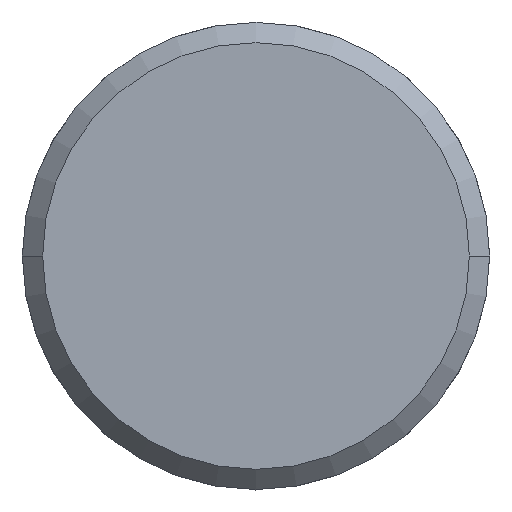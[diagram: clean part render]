
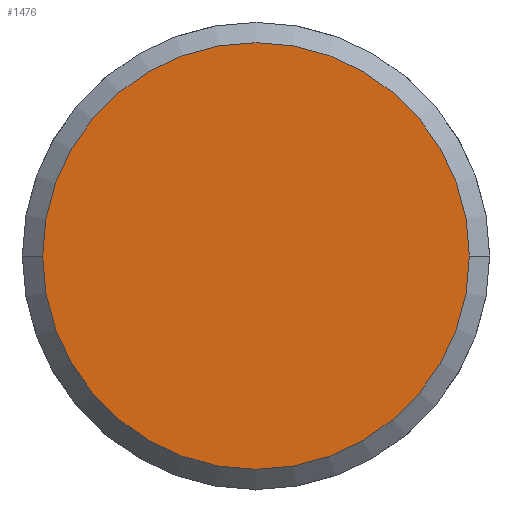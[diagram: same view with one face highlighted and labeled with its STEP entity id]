
A CAD part, front view. The second image highlights one B-rep face of the part: STEP entity #1476.
In plain terms, the highlighted planar face has unit normal (0, -1, 0).
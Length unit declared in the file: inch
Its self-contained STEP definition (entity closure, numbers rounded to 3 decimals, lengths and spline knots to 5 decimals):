
#30 = AXIS2_PLACEMENT_3D ( 'NONE', #1380, #1381, #1383 ) ;
#340 = CARTESIAN_POINT ( 'NONE',  ( -4.57812, 1.09593, 0. ) ) ;
#348 = CARTESIAN_POINT ( 'NONE',  ( -3.26212, 1.09593, 0. ) ) ;
#429 = CIRCLE ( 'NONE', #1216, 0.658 ) ;
#509 = CIRCLE ( 'NONE', #1213, 0.658 ) ;
#720 = ORIENTED_EDGE ( 'NONE', *, *, #1304, .F. ) ;
#725 = ORIENTED_EDGE ( 'NONE', *, *, #1299, .F. ) ;
#785 = EDGE_LOOP ( 'NONE', ( #720, #725 ) ) ;
#1009 = VERTEX_POINT ( 'NONE', #348 ) ;
#1015 = VERTEX_POINT ( 'NONE', #340 ) ;
#1041 = PLANE ( 'NONE',  #30 ) ;
#1213 = AXIS2_PLACEMENT_3D ( 'NONE', #1610, #1609, #1607 ) ;
#1216 = AXIS2_PLACEMENT_3D ( 'NONE', #1624, #1623, #1622 ) ;
#1299 = EDGE_CURVE ( 'NONE', #1009, #1015, #429, .T. ) ;
#1304 = EDGE_CURVE ( 'NONE', #1015, #1009, #509, .T. ) ;
#1380 = CARTESIAN_POINT ( 'NONE',  ( 0., 1.09593, 0. ) ) ;
#1381 = DIRECTION ( 'NONE',  ( 0., -1., 0. ) ) ;
#1383 = DIRECTION ( 'NONE',  ( 0., 0., -1. ) ) ;
#1411 = FACE_OUTER_BOUND ( 'NONE', #785, .T. ) ;
#1476 = ADVANCED_FACE ( 'NONE', ( #1411 ), #1041, .T. ) ;
#1607 = DIRECTION ( 'NONE',  ( -1., 0., 0. ) ) ;
#1609 = DIRECTION ( 'NONE',  ( 0., 1., 0. ) ) ;
#1610 = CARTESIAN_POINT ( 'NONE',  ( -3.92012, 1.09593, 0. ) ) ;
#1622 = DIRECTION ( 'NONE',  ( -1., 0., 0. ) ) ;
#1623 = DIRECTION ( 'NONE',  ( 0., 1., 0. ) ) ;
#1624 = CARTESIAN_POINT ( 'NONE',  ( -3.92012, 1.09593, 0. ) ) ;
